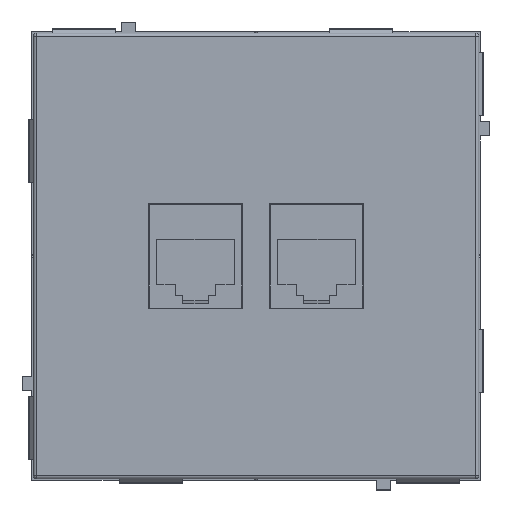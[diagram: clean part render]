
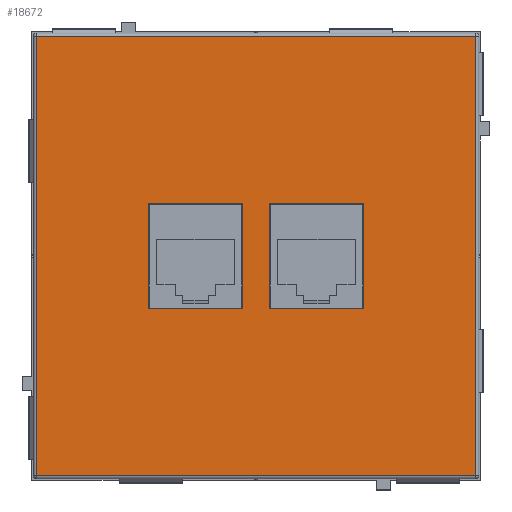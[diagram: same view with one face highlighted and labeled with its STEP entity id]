
A CAD part, top view. The second image highlights one B-rep face of the part: STEP entity #18672.
In plain terms, the highlighted planar face has unit normal (0, 0, 1).
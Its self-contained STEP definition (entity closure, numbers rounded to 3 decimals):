
#312 = DIRECTION ( 'NONE',  ( 0., -1., 0. ) ) ;
#453 = DIRECTION ( 'NONE',  ( 0., 1., 0. ) ) ;
#713 = VERTEX_POINT ( 'NONE', #30854 ) ;
#985 = FACE_OUTER_BOUND ( 'NONE', #35203, .T. ) ;
#1210 = CARTESIAN_POINT ( 'NONE',  ( 16.9, -8.25, 7.3 ) ) ;
#1222 = VECTOR ( 'NONE', #8246, 1000. ) ;
#1646 = CARTESIAN_POINT ( 'NONE',  ( -16.9, 8.25, 7.3 ) ) ;
#2242 = EDGE_CURVE ( 'NONE', #713, #26253, #36888, .T. ) ;
#2629 = EDGE_LOOP ( 'NONE', ( #12926, #17536, #7598, #11232 ) ) ;
#2756 = EDGE_CURVE ( 'NONE', #12931, #35937, #36145, .T. ) ;
#3018 = ORIENTED_EDGE ( 'NONE', *, *, #19834, .T. ) ;
#3076 = LINE ( 'NONE', #12530, #12073 ) ;
#3095 = CARTESIAN_POINT ( 'NONE',  ( -2.1, -8.25, 7.3 ) ) ;
#4210 = FACE_BOUND ( 'NONE', #2629, .T. ) ;
#4839 = CARTESIAN_POINT ( 'NONE',  ( -34.5, 0., 7.3 ) ) ;
#6429 = CARTESIAN_POINT ( 'NONE',  ( 34.5, 34.5, 7.3 ) ) ;
#6668 = EDGE_CURVE ( 'NONE', #27709, #19338, #31788, .T. ) ;
#6960 = VERTEX_POINT ( 'NONE', #37566 ) ;
#7169 = EDGE_CURVE ( 'NONE', #19338, #34667, #26717, .T. ) ;
#7530 = LINE ( 'NONE', #22015, #37548 ) ;
#7598 = ORIENTED_EDGE ( 'NONE', *, *, #9183, .F. ) ;
#7749 = ORIENTED_EDGE ( 'NONE', *, *, #16076, .F. ) ;
#8029 = DIRECTION ( 'NONE',  ( -1., 0., 0. ) ) ;
#8246 = DIRECTION ( 'NONE',  ( 1., 0., 0. ) ) ;
#8900 = EDGE_CURVE ( 'NONE', #6960, #27709, #33393, .T. ) ;
#9043 = CARTESIAN_POINT ( 'NONE',  ( 0., -34.5, 7.3 ) ) ;
#9183 = EDGE_CURVE ( 'NONE', #26253, #21335, #10655, .T. ) ;
#9367 = CARTESIAN_POINT ( 'NONE',  ( 2.1, -8.25, 7.3 ) ) ;
#10237 = VECTOR ( 'NONE', #32777, 1000. ) ;
#10655 = LINE ( 'NONE', #1210, #32494 ) ;
#10704 = CARTESIAN_POINT ( 'NONE',  ( -2.1, -8.25, 7.3 ) ) ;
#11023 = CARTESIAN_POINT ( 'NONE',  ( -2.1, 8.25, 7.3 ) ) ;
#11232 = ORIENTED_EDGE ( 'NONE', *, *, #2242, .F. ) ;
#11284 = DIRECTION ( 'NONE',  ( 0., -1., 0. ) ) ;
#12035 = ORIENTED_EDGE ( 'NONE', *, *, #24547, .T. ) ;
#12073 = VECTOR ( 'NONE', #453, 1000. ) ;
#12360 = EDGE_CURVE ( 'NONE', #37668, #29535, #13478, .T. ) ;
#12530 = CARTESIAN_POINT ( 'NONE',  ( 34.5, 0., 7.3 ) ) ;
#12610 = CARTESIAN_POINT ( 'NONE',  ( 2.1, -8.25, 7.3 ) ) ;
#12657 = ORIENTED_EDGE ( 'NONE', *, *, #6668, .F. ) ;
#12926 = ORIENTED_EDGE ( 'NONE', *, *, #16729, .F. ) ;
#12931 = VERTEX_POINT ( 'NONE', #33269 ) ;
#13478 = LINE ( 'NONE', #21917, #21099 ) ;
#15545 = EDGE_CURVE ( 'NONE', #21335, #16599, #7530, .T. ) ;
#16076 = EDGE_CURVE ( 'NONE', #34667, #6960, #17537, .T. ) ;
#16599 = VERTEX_POINT ( 'NONE', #26916 ) ;
#16729 = EDGE_CURVE ( 'NONE', #16599, #713, #24090, .T. ) ;
#17536 = ORIENTED_EDGE ( 'NONE', *, *, #15545, .F. ) ;
#17537 = LINE ( 'NONE', #19969, #17742 ) ;
#17742 = VECTOR ( 'NONE', #11284, 1000. ) ;
#17904 = CARTESIAN_POINT ( 'NONE',  ( -16.9, 8.25, 7.3 ) ) ;
#18672 = ADVANCED_FACE ( 'NONE', ( #34570, #4210, #985 ), #25740, .F. ) ;
#18751 = CARTESIAN_POINT ( 'NONE',  ( 16.9, -8.25, 7.3 ) ) ;
#18971 = ORIENTED_EDGE ( 'NONE', *, *, #7169, .F. ) ;
#19269 = CARTESIAN_POINT ( 'NONE',  ( -34.5, 34.5, 7.3 ) ) ;
#19338 = VERTEX_POINT ( 'NONE', #11023 ) ;
#19408 = DIRECTION ( 'NONE',  ( 0., 1., 0. ) ) ;
#19513 = CARTESIAN_POINT ( 'NONE',  ( 0., 0., 7.3 ) ) ;
#19834 = EDGE_CURVE ( 'NONE', #35937, #37668, #3076, .T. ) ;
#19969 = CARTESIAN_POINT ( 'NONE',  ( -16.9, -8.25, 7.3 ) ) ;
#21099 = VECTOR ( 'NONE', #37541, 1000. ) ;
#21335 = VERTEX_POINT ( 'NONE', #18751 ) ;
#21573 = VECTOR ( 'NONE', #8029, 1000. ) ;
#21600 = VECTOR ( 'NONE', #27505, 1000. ) ;
#21917 = CARTESIAN_POINT ( 'NONE',  ( 0., 34.5, 7.3 ) ) ;
#22015 = CARTESIAN_POINT ( 'NONE',  ( 16.9, -8.25, 7.3 ) ) ;
#22984 = DIRECTION ( 'NONE',  ( 0., 1., 0. ) ) ;
#24090 = LINE ( 'NONE', #26702, #21600 ) ;
#24547 = EDGE_CURVE ( 'NONE', #29535, #12931, #38406, .T. ) ;
#25740 = PLANE ( 'NONE',  #33170 ) ;
#26253 = VERTEX_POINT ( 'NONE', #12610 ) ;
#26702 = CARTESIAN_POINT ( 'NONE',  ( 16.9, 8.25, 7.3 ) ) ;
#26717 = LINE ( 'NONE', #17904, #21573 ) ;
#26916 = CARTESIAN_POINT ( 'NONE',  ( 16.9, 8.25, 7.3 ) ) ;
#27157 = ORIENTED_EDGE ( 'NONE', *, *, #2756, .T. ) ;
#27163 = DIRECTION ( 'NONE',  ( 1., 0., 0. ) ) ;
#27505 = DIRECTION ( 'NONE',  ( -1., 0., 0. ) ) ;
#27709 = VERTEX_POINT ( 'NONE', #3095 ) ;
#28527 = DIRECTION ( 'NONE',  ( 0., 0., -1. ) ) ;
#28811 = EDGE_LOOP ( 'NONE', ( #18971, #12657, #31537, #7749 ) ) ;
#29396 = CARTESIAN_POINT ( 'NONE',  ( -16.9, -8.25, 7.3 ) ) ;
#29535 = VERTEX_POINT ( 'NONE', #19269 ) ;
#29979 = CARTESIAN_POINT ( 'NONE',  ( 34.5, -34.5, 7.3 ) ) ;
#30854 = CARTESIAN_POINT ( 'NONE',  ( 2.1, 8.25, 7.3 ) ) ;
#31537 = ORIENTED_EDGE ( 'NONE', *, *, #8900, .F. ) ;
#31788 = LINE ( 'NONE', #10704, #33717 ) ;
#31954 = DIRECTION ( 'NONE',  ( 1., 0., 0. ) ) ;
#32494 = VECTOR ( 'NONE', #31954, 1000. ) ;
#32777 = DIRECTION ( 'NONE',  ( 0., -1., 0. ) ) ;
#33170 = AXIS2_PLACEMENT_3D ( 'NONE', #19513, #28527, #37966 ) ;
#33269 = CARTESIAN_POINT ( 'NONE',  ( -34.5, -34.5, 7.3 ) ) ;
#33393 = LINE ( 'NONE', #29396, #34403 ) ;
#33717 = VECTOR ( 'NONE', #22984, 1000. ) ;
#34403 = VECTOR ( 'NONE', #27163, 1000. ) ;
#34570 = FACE_BOUND ( 'NONE', #28811, .T. ) ;
#34667 = VERTEX_POINT ( 'NONE', #1646 ) ;
#35203 = EDGE_LOOP ( 'NONE', ( #3018, #38610, #12035, #27157 ) ) ;
#35937 = VERTEX_POINT ( 'NONE', #29979 ) ;
#36145 = LINE ( 'NONE', #9043, #1222 ) ;
#36888 = LINE ( 'NONE', #9367, #37814 ) ;
#37541 = DIRECTION ( 'NONE',  ( -1., 0., 0. ) ) ;
#37548 = VECTOR ( 'NONE', #19408, 1000. ) ;
#37566 = CARTESIAN_POINT ( 'NONE',  ( -16.9, -8.25, 7.3 ) ) ;
#37668 = VERTEX_POINT ( 'NONE', #6429 ) ;
#37814 = VECTOR ( 'NONE', #312, 1000. ) ;
#37966 = DIRECTION ( 'NONE',  ( 0., 1., 0. ) ) ;
#38406 = LINE ( 'NONE', #4839, #10237 ) ;
#38610 = ORIENTED_EDGE ( 'NONE', *, *, #12360, .T. ) ;
